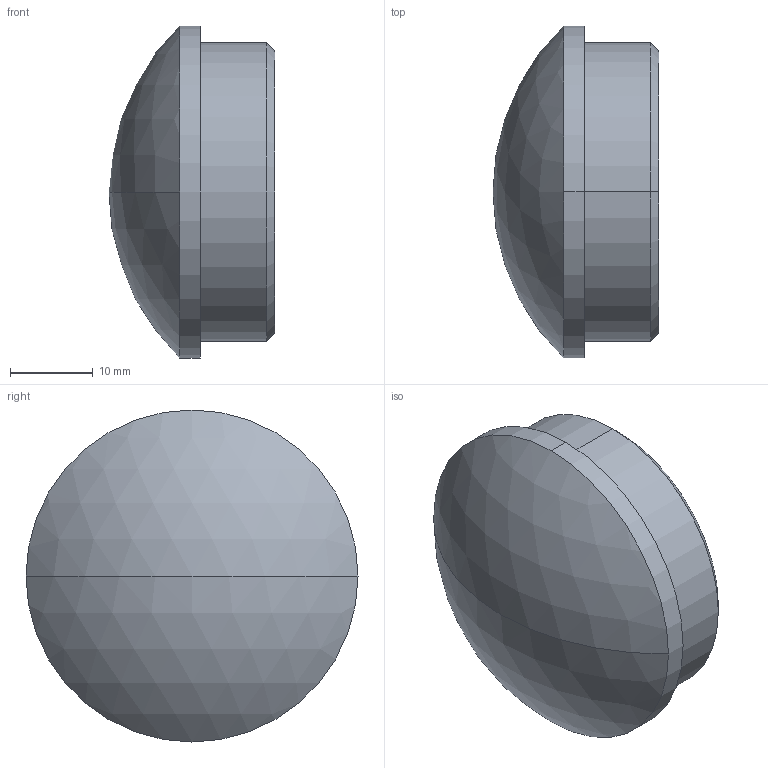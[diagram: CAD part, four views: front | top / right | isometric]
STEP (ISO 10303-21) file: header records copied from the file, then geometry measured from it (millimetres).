
FILE_DESCRIPTION (( 'STEP AP203' ), '1' );
FILE_NAME ('3D_GR1392_DN40x2_18380220.STEP', '2024-09-21T10:19:03', ( '' ), ( '' ), 'SwSTEP 2.0', 'SolidWorks 2024', '' );
FILE_SCHEMA (( 'CONFIG_CONTROL_DESIGN' ));
Length unit declared in the file: millimetre
Products named in the file (1): 3D_GR1392_DN40x2_18380220
Bounding box: 20 x 40 x 40 mm (x, y, z)
Volume: 17909.2 mm3; surface area: 4004.7 mm2
Topology: 1 solids, 1 shells, 10 faces, 20 edges, 13 vertices
Faces by surface type: cylinder 4, cone 2, sphere 2, plane 2
Entity records: 347 total; most frequent: DIRECTION 56, CARTESIAN_POINT 44, ORIENTED_EDGE 40, AXIS2_PLACEMENT_3D 25, EDGE_CURVE 20, CIRCLE 14, VERTEX_POINT 13, EDGE_LOOP 11
